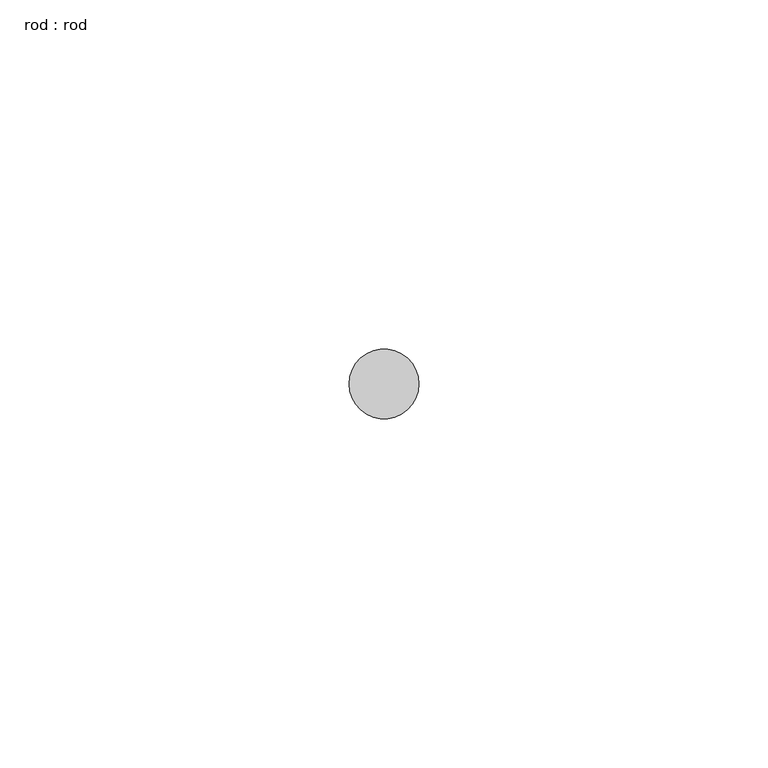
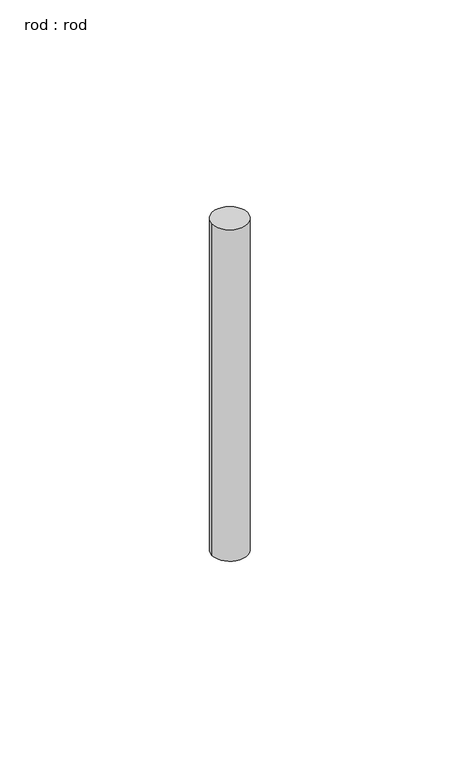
"""IFC4 building model written with IfcOpenShell, lengths in millimetres: unitary equipment geometry, rod : rod."""

from ifc_helpers import new_model, si_unit, point, origin, origin_with_axes, origin_2d, place, context, project, spatial, circle_curve, trimmed, segment, composite_curve, outline, extrude, source, transform, mapped, element, save


def rod_rod_26dff0d2(model_context):
    return source(origin(), model_context, "Body", "SweptSolid", [
        extrude(outline(composite_curve([segment(trimmed(circle_curve(origin_2d(), 5.0), [point((5.0, 0.0))], [point((-5.0, 0.0))], False, "CARTESIAN"), True, "CONTINUOUS"), segment(trimmed(circle_curve(origin_2d(), 5.0), [point((-5.0, 0.0))], [point((5.0, 0.0))], False, "CARTESIAN"), True, "CONTINUOUS")], self_intersect=False)), origin_with_axes(), (0.0, 0.0, 1.0), 100.0),
    ])


if __name__ == "__main__":
    model = new_model("IFC4")
    model_context = context("Model", 3, world=origin())
    ifc_project = project(units=[si_unit("LENGTHUNIT", "METRE", prefix="MILLI")], contexts=[model_context])
    site = spatial("IfcSite", under=ifc_project)
    building = spatial("IfcBuilding", under=site)
    placement = place(None, origin())
    rod_rod_shape = rod_rod_26dff0d2(model_context)
    element("IfcUnitaryEquipment", 1, ObjectType="rod : rod", at=placement, inside=building, context=model_context, shape_type="MappedRepresentation", body=[
        mapped(rod_rod_shape, transform((0.0, 0.0, 0.0), x_axis=(1.0, 0.0, 0.0), y_axis=(0.0, 1.0, 0.0), z_axis=(0.0, 0.0, 1.0))),
    ])
    save(model, "model.ifc")
